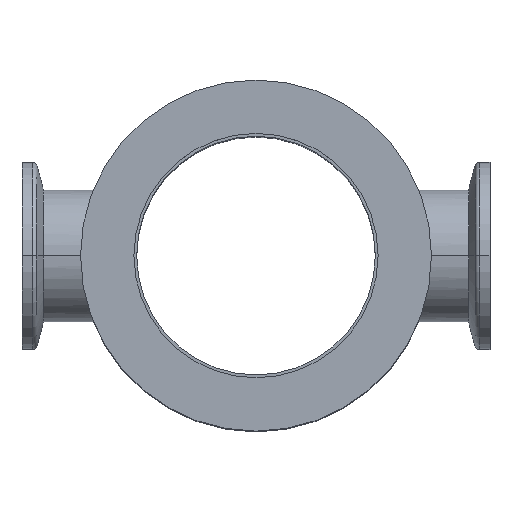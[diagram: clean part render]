
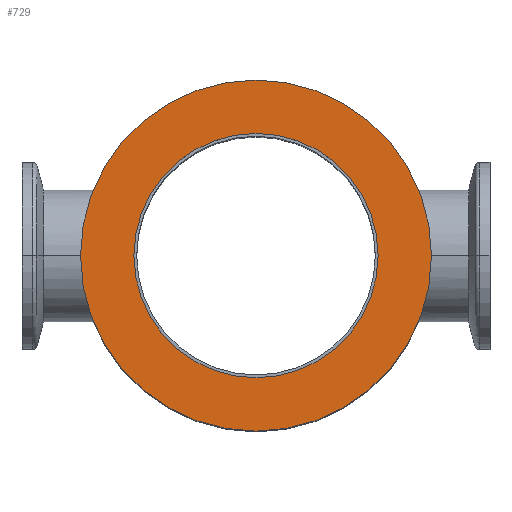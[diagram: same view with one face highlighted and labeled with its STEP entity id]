
A CAD part, top view. The second image highlights one B-rep face of the part: STEP entity #729.
In plain terms, the highlighted planar face has unit normal (0, 0, 1).
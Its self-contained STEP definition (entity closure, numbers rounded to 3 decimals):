
#31 = VERTEX_POINT ( 'NONE', #339 ) ;
#77 = PLANE ( 'NONE',  #1079 ) ;
#81 = DIRECTION ( 'NONE',  ( 1., 0., 0. ) ) ;
#150 = DIRECTION ( 'NONE',  ( 1., 0., 0. ) ) ;
#177 = AXIS2_PLACEMENT_3D ( 'NONE', #1590, #2966, #150 ) ;
#214 = VERTEX_POINT ( 'NONE', #2446 ) ;
#244 = EDGE_CURVE ( 'NONE', #214, #31, #2075, .T. ) ;
#259 = EDGE_CURVE ( 'NONE', #2847, #1313, #2333, .T. ) ;
#289 = CARTESIAN_POINT ( 'NONE',  ( 0., 0., 0. ) ) ;
#313 = EDGE_CURVE ( 'NONE', #31, #214, #1934, .T. ) ;
#339 = CARTESIAN_POINT ( 'NONE',  ( 37.5, 0., 0. ) ) ;
#521 = DIRECTION ( 'NONE',  ( 0., 0., 1. ) ) ;
#603 = DIRECTION ( 'NONE',  ( 1., 0., 0. ) ) ;
#721 = AXIS2_PLACEMENT_3D ( 'NONE', #289, #2225, #81 ) ;
#729 = ADVANCED_FACE ( 'NONE', ( #2659, #2173 ), #77, .T. ) ;
#787 = DIRECTION ( 'NONE',  ( 0., 0., 1. ) ) ;
#833 = ORIENTED_EDGE ( 'NONE', *, *, #1469, .F. ) ;
#975 = AXIS2_PLACEMENT_3D ( 'NONE', #1047, #787, #2001 ) ;
#1035 = ORIENTED_EDGE ( 'NONE', *, *, #259, .F. ) ;
#1047 = CARTESIAN_POINT ( 'NONE',  ( 0., 0., 0. ) ) ;
#1059 = ORIENTED_EDGE ( 'NONE', *, *, #313, .T. ) ;
#1079 = AXIS2_PLACEMENT_3D ( 'NONE', #1688, #521, #1516 ) ;
#1179 = ORIENTED_EDGE ( 'NONE', *, *, #244, .T. ) ;
#1313 = VERTEX_POINT ( 'NONE', #1537 ) ;
#1445 = AXIS2_PLACEMENT_3D ( 'NONE', #2509, #2539, #603 ) ;
#1469 = EDGE_CURVE ( 'NONE', #1313, #2847, #3045, .T. ) ;
#1516 = DIRECTION ( 'NONE',  ( 1., 0., 0. ) ) ;
#1537 = CARTESIAN_POINT ( 'NONE',  ( -26.1, 0., 0. ) ) ;
#1590 = CARTESIAN_POINT ( 'NONE',  ( 0., 0., 0. ) ) ;
#1688 = CARTESIAN_POINT ( 'NONE',  ( 0., 37.5, 0. ) ) ;
#1799 = CARTESIAN_POINT ( 'NONE',  ( 26.1, 0., 0. ) ) ;
#1934 = CIRCLE ( 'NONE', #177, 37.5 ) ;
#1976 = EDGE_LOOP ( 'NONE', ( #1059, #1179 ) ) ;
#2001 = DIRECTION ( 'NONE',  ( 1., 0., 0. ) ) ;
#2075 = CIRCLE ( 'NONE', #721, 37.5 ) ;
#2173 = FACE_BOUND ( 'NONE', #2370, .T. ) ;
#2225 = DIRECTION ( 'NONE',  ( 0., 0., 1. ) ) ;
#2333 = CIRCLE ( 'NONE', #975, 26.1 ) ;
#2370 = EDGE_LOOP ( 'NONE', ( #1035, #833 ) ) ;
#2446 = CARTESIAN_POINT ( 'NONE',  ( -37.5, 0., 0. ) ) ;
#2509 = CARTESIAN_POINT ( 'NONE',  ( 0., 0., 0. ) ) ;
#2539 = DIRECTION ( 'NONE',  ( 0., 0., 1. ) ) ;
#2659 = FACE_OUTER_BOUND ( 'NONE', #1976, .T. ) ;
#2847 = VERTEX_POINT ( 'NONE', #1799 ) ;
#2966 = DIRECTION ( 'NONE',  ( 0., 0., 1. ) ) ;
#3045 = CIRCLE ( 'NONE', #1445, 26.1 ) ;
